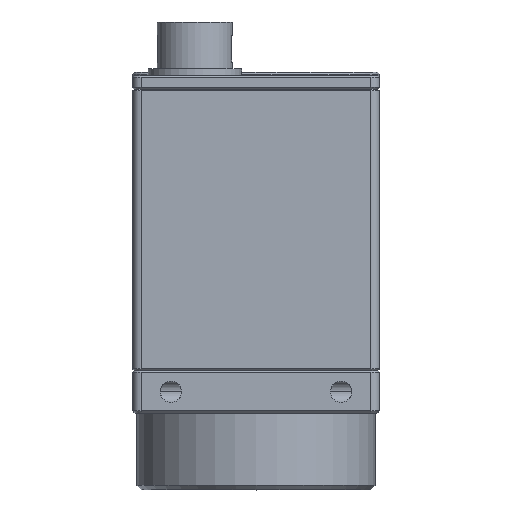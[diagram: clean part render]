
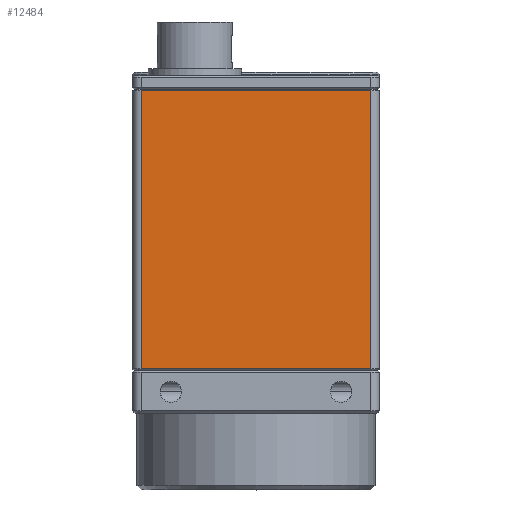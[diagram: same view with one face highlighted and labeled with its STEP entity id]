
A CAD part, top view. The second image highlights one B-rep face of the part: STEP entity #12484.
In plain terms, the highlighted planar face has unit normal (0, 0, 1).
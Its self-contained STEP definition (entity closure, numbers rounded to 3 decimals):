
#2743 = EDGE_CURVE ( 'NONE', #13544, #7957, #27481, .T. ) ;
#2765 = VECTOR ( 'NONE', #34190, 1000. ) ;
#4361 = DIRECTION ( 'NONE',  ( 1., 0., 0. ) ) ;
#5007 = ORIENTED_EDGE ( 'NONE', *, *, #22098, .T. ) ;
#7957 = VERTEX_POINT ( 'NONE', #44733 ) ;
#8561 = LINE ( 'NONE', #36613, #11009 ) ;
#11009 = VECTOR ( 'NONE', #28800, 1000. ) ;
#12484 = ADVANCED_FACE ( 'NONE', ( #44897 ), #43972, .F. ) ;
#12734 = DIRECTION ( 'NONE',  ( 0., 0., -1. ) ) ;
#13231 = LINE ( 'NONE', #33949, #22883 ) ;
#13544 = VERTEX_POINT ( 'NONE', #19388 ) ;
#15839 = CARTESIAN_POINT ( 'NONE',  ( -13.5, -4.8, 14.5 ) ) ;
#19388 = CARTESIAN_POINT ( 'NONE',  ( 13.5, -4.8, 14.5 ) ) ;
#19895 = CARTESIAN_POINT ( 'NONE',  ( 13.5, 28.1, 14.5 ) ) ;
#20444 = EDGE_CURVE ( 'NONE', #42239, #13544, #35860, .T. ) ;
#22098 = EDGE_CURVE ( 'NONE', #31399, #42239, #13231, .T. ) ;
#22729 = CARTESIAN_POINT ( 'NONE',  ( -13.5, 27.9, 14.5 ) ) ;
#22883 = VECTOR ( 'NONE', #44478, 1000. ) ;
#23770 = ORIENTED_EDGE ( 'NONE', *, *, #2743, .T. ) ;
#24585 = ORIENTED_EDGE ( 'NONE', *, *, #44656, .T. ) ;
#26973 = DIRECTION ( 'NONE',  ( -1., 0., 0. ) ) ;
#27481 = LINE ( 'NONE', #19895, #2765 ) ;
#28800 = DIRECTION ( 'NONE',  ( -1., 0., 0. ) ) ;
#31399 = VERTEX_POINT ( 'NONE', #22729 ) ;
#33949 = CARTESIAN_POINT ( 'NONE',  ( -13.5, 28.1, 14.5 ) ) ;
#34190 = DIRECTION ( 'NONE',  ( 0., 1., 0. ) ) ;
#35860 = LINE ( 'NONE', #39521, #44071 ) ;
#36613 = CARTESIAN_POINT ( 'NONE',  ( -13.5, 27.9, 14.5 ) ) ;
#39521 = CARTESIAN_POINT ( 'NONE',  ( -14.5, -4.8, 14.5 ) ) ;
#39605 = EDGE_LOOP ( 'NONE', ( #5007, #40183, #23770, #24585 ) ) ;
#40183 = ORIENTED_EDGE ( 'NONE', *, *, #20444, .T. ) ;
#40744 = CARTESIAN_POINT ( 'NONE',  ( -14.5, 28.1, 14.5 ) ) ;
#42239 = VERTEX_POINT ( 'NONE', #15839 ) ;
#43972 = PLANE ( 'NONE',  #45206 ) ;
#44071 = VECTOR ( 'NONE', #4361, 1000. ) ;
#44478 = DIRECTION ( 'NONE',  ( 0., -1., 0. ) ) ;
#44656 = EDGE_CURVE ( 'NONE', #7957, #31399, #8561, .T. ) ;
#44733 = CARTESIAN_POINT ( 'NONE',  ( 13.5, 27.9, 14.5 ) ) ;
#44897 = FACE_OUTER_BOUND ( 'NONE', #39605, .T. ) ;
#45206 = AXIS2_PLACEMENT_3D ( 'NONE', #40744, #12734, #26973 ) ;
